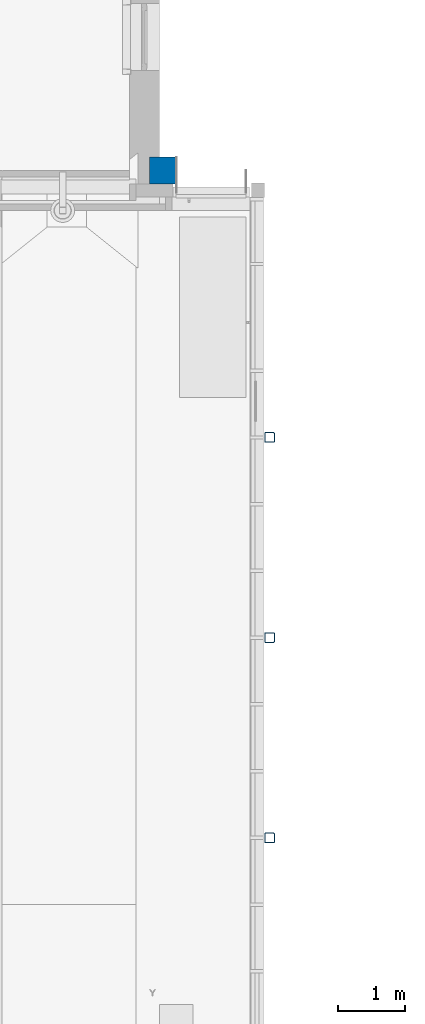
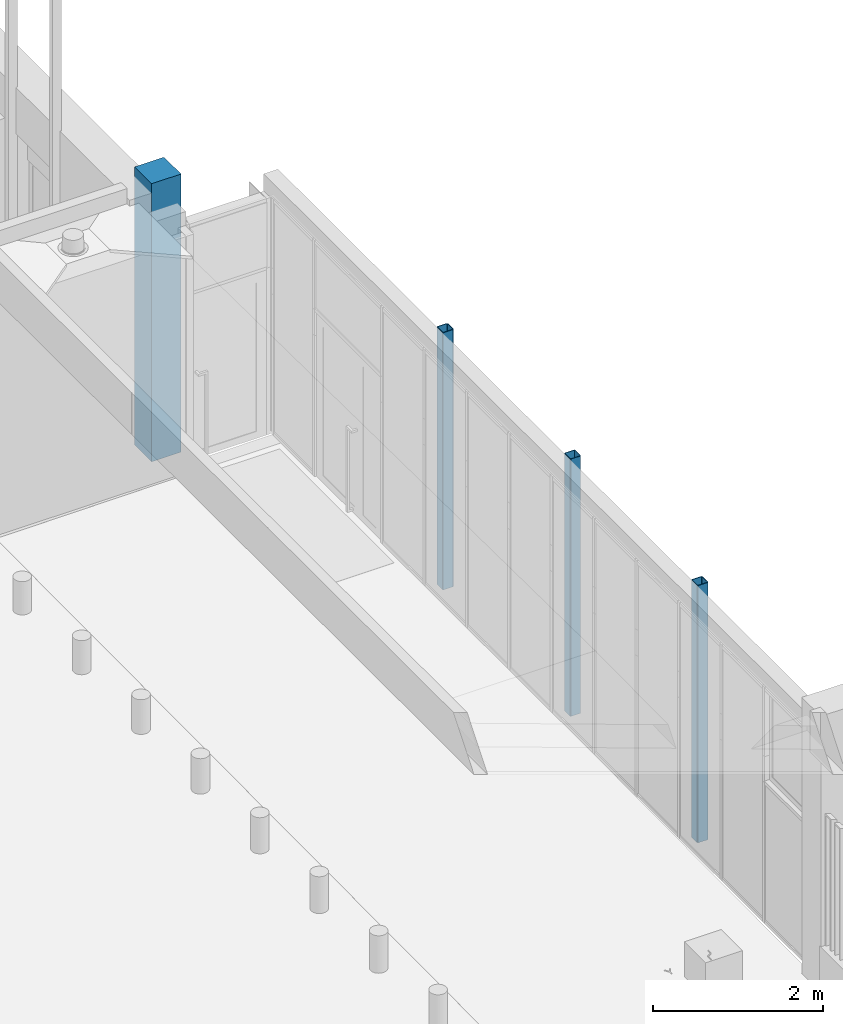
# One storey, part 2 of 77: 4 columns.
"""IFC2X3 building model written with IfcOpenShell, lengths in millimetres."""

import ifcopenshell
import ifcopenshell.guid

model = None  # the IFC model being written
_history = None  # IfcOwnerHistory: only IFC2X3 demands one
_inside = {}  # id of a spatial element -> (the spatial element, [elements in it])
_under = {}  # id of a project, library or spatial element -> (it, [spatial elements below it])
_declared = {}  # id of a project -> (the project, [libraries it declares])
_typed = {}  # id of a type object -> (the type object, [elements of that type])
_made_of = {}  # id of a material, layer set ... -> (it, [elements and type objects made of it])


def new_model(schema):
    """Start an empty IFC model of exactly this schema.

    Asked for "IFC4X3", IfcOpenShell would pick the latest addendum, in which some entities
    have other attributes; the version numbers below select the first issue.
    IFC2X3 requires an IfcOwnerHistory on every rooted entity: one is made here for all.
    """
    global model, _history
    if schema == "IFC4X3":
        model = ifcopenshell.file(schema_version=(4, 3, 0, 0))
    else:
        model = ifcopenshell.file(schema=schema)
    _inside.clear()
    _under.clear()
    _declared.clear()
    _typed.clear()
    _made_of.clear()
    _history = None
    if model.schema == "IFC2X3":
        org = make("IfcOrganization", Name="unknown")
        user = make(
            "IfcPersonAndOrganization",
            ThePerson=make("IfcPerson", FamilyName="unknown"),
            TheOrganization=org,
        )
        app = make(
            "IfcApplication",
            ApplicationDeveloper=org,
            Version="unknown",
            ApplicationFullName="unknown",
            ApplicationIdentifier="unknown",
        )
        _history = make(
            "IfcOwnerHistory",
            OwningUser=user,
            OwningApplication=app,
            ChangeAction="ADDED",
            CreationDate=0,
        )
    return model


def make(cls, **values):
    """One entity of the class cls with the attributes given. An attribute that is None is left unset."""
    return model.create_entity(
        cls, **{name: value for name, value in values.items() if value is not None}
    )


def entity(cls, *values):
    """Any entity or typed value of the class cls, its attributes in the order of the schema. None: left unset."""
    e = model.create_entity(cls)
    for i, value in enumerate(values):
        if value is not None:
            e[i] = value
    return e


def rooted(cls, **values):
    """An entity with a GlobalId (a new one), such as an element, a storey or a relation."""
    return make(cls, GlobalId=ifcopenshell.guid.new(), OwnerHistory=_history, **values)


def si_unit(unit_type, name, prefix=None):
    """IfcSIUnit, for example si_unit("LENGTHUNIT", "METRE", prefix="MILLI")."""
    return make("IfcSIUnit", UnitType=unit_type, Prefix=prefix, Name=name)


def converted_unit(unit_type, name, factor, base, dimensions=None, offset=None):
    """IfcConversionBasedUnit, such as the inch: factor (a typed value) times the base unit."""
    return make(
        "IfcConversionBasedUnit"
        if offset is None
        else "IfcConversionBasedUnitWithOffset",
        ConversionOffset=offset,
        Dimensions=None
        if dimensions is None
        else entity("IfcDimensionalExponents", *dimensions),
        UnitType=unit_type,
        Name=name,
        ConversionFactor=make(
            "IfcMeasureWithUnit", ValueComponent=factor, UnitComponent=base
        ),
    )


def derived_unit(unit_type, elements):
    """IfcDerivedUnit: a product of units, each with its exponent."""
    return make(
        "IfcDerivedUnit",
        Elements=[
            make("IfcDerivedUnitElement", Unit=unit, Exponent=power)
            for unit, power in elements
        ],
        UnitType=unit_type,
    )


def assignment(units):
    """IfcUnitAssignment: the units of a project."""
    return None if units is None else make("IfcUnitAssignment", Units=units)


def point(xyz):
    """IfcCartesianPoint."""
    return None if xyz is None else make("IfcCartesianPoint", Coordinates=xyz)


def direction(xyz):
    """IfcDirection."""
    return None if xyz is None else make("IfcDirection", DirectionRatios=xyz)


def frame(location, z_axis=None, x_axis=None):
    """IfcAxis2Placement3D, a coordinate frame: its origin and axes. An axis left out is left unset."""
    return make(
        "IfcAxis2Placement3D",
        Location=point(location),
        Axis=direction(z_axis),
        RefDirection=direction(x_axis),
    )


def frame_2d(location, x_axis=None):
    """IfcAxis2Placement2D, a coordinate frame in the plane: its origin and x axis."""
    return make(
        "IfcAxis2Placement2D", Location=point(location), RefDirection=direction(x_axis)
    )


def origin():
    """The frame at (0, 0, 0) with its axes left unset."""
    return frame((0.0, 0.0, 0.0))


def origin_2d_with_axis():
    """The frame at (0, 0) in the plane with the x axis (1, 0) written out."""
    return frame_2d((0.0, 0.0), x_axis=(1.0, 0.0))


def place(relative_to, where):
    """IfcLocalPlacement: puts the frame where relative to a parent placement (None: the world)."""
    return make(
        "IfcLocalPlacement", PlacementRelTo=relative_to, RelativePlacement=where
    )


def context(
    kind, dimensions, precision=None, world=None, true_north=None, identifier=None
):
    """IfcGeometricRepresentationContext, for example the 3D "Model" context."""
    return make(
        "IfcGeometricRepresentationContext",
        ContextIdentifier=identifier,
        ContextType=kind,
        CoordinateSpaceDimension=dimensions,
        Precision=precision,
        WorldCoordinateSystem=world,
        TrueNorth=true_north,
    )


def subcontext(parent, identifier, kind, view, scale=None):
    """IfcGeometricRepresentationSubContext, for example "Body" below "Model"."""
    return make(
        "IfcGeometricRepresentationSubContext",
        ContextIdentifier=identifier,
        ContextType=kind,
        ParentContext=parent,
        TargetScale=scale,
        TargetView=view,
    )


def project(units=None, contexts=None):
    """IfcProject with its units and contexts."""
    return rooted(
        "IfcProject",
        Name="project",
        RepresentationContexts=contexts,
        UnitsInContext=assignment(units),
    )


def spatial(cls, under=None, at=None, **own):
    """A site, building, storey or space (cls), placed at a placement, below another one or the project."""
    s = rooted(cls, ObjectPlacement=at, **own)
    if under is not None:
        _under.setdefault(under.id(), (under, []))[1].append(s)
    return s


def polyline(points):
    """IfcPolyline through the points."""
    return make("IfcPolyline", Points=[point(p) for p in points])


def circle_curve(where, radius):
    """IfcCircle in the frame where."""
    return make("IfcCircle", Position=where, Radius=radius)


def parameter(value):
    """IfcParameterValue: where a trimmed curve begins or ends, as a parameter of its basis curve."""
    return model.create_entity("IfcParameterValue", value)


def trimmed(basis, trim1, trim2, sense, master):
    """IfcTrimmedCurve: the piece of a basis curve between two trims."""
    return make(
        "IfcTrimmedCurve",
        BasisCurve=basis,
        Trim1=trim1,
        Trim2=trim2,
        SenseAgreement=sense,
        MasterRepresentation=master,
    )


def segment(curve, same_sense, transition):
    """IfcCompositeCurveSegment."""
    return make(
        "IfcCompositeCurveSegment",
        Transition=transition,
        SameSense=same_sense,
        ParentCurve=curve,
    )


def composite_curve(segments, self_intersect=None):
    """IfcCompositeCurve: segments joined end to end."""
    return make("IfcCompositeCurve", Segments=segments, SelfIntersect=self_intersect)


def profile(cls, at=None, kind="AREA", **sizes):
    """A parametric profile (cls). Its sizes go by their IFC names, for example OverallWidth=200.0."""
    return make(cls, ProfileType=kind, Position=at, **sizes)


def rectangle(**sizes):
    """IfcRectangleProfileDef."""
    return profile("IfcRectangleProfileDef", **sizes)


def outline(outer, holes=None, kind="AREA"):
    """IfcArbitraryClosedProfileDef: a profile drawn as a closed curve; with holes, ...WithVoids."""
    if holes is None:
        return make("IfcArbitraryClosedProfileDef", ProfileType=kind, OuterCurve=outer)
    return make(
        "IfcArbitraryProfileDefWithVoids",
        ProfileType=kind,
        OuterCurve=outer,
        InnerCurves=holes,
    )


def extrude(swept, where, along, depth):
    """IfcExtrudedAreaSolid: the profile swept, set in the frame where, extruded along a direction by depth."""
    return make(
        "IfcExtrudedAreaSolid",
        SweptArea=swept,
        Position=where,
        ExtrudedDirection=direction(along),
        Depth=depth,
    )


def shape(context_of_items, identifier, shape_type, items):
    """IfcShapeRepresentation: the items that make up one representation, for example the "Body"."""
    return make(
        "IfcShapeRepresentation",
        ContextOfItems=context_of_items,
        RepresentationIdentifier=identifier,
        RepresentationType=shape_type,
        Items=items,
    )


def source(mapping_origin, context_of_items, identifier, shape_type, items):
    """IfcRepresentationMap: a shape defined once, which mapped items show again and again."""
    return make(
        "IfcRepresentationMap",
        MappingOrigin=mapping_origin,
        MappedRepresentation=shape(context_of_items, identifier, shape_type, items),
    )


def transform(
    local_origin,
    x_axis=None,
    y_axis=None,
    z_axis=None,
    scale=None,
    scale2=None,
    scale3=None,
    uniform=True,
):
    """IfcCartesianTransformationOperator3D, or its non-uniform kind. x_axis, y_axis, z_axis: its Axis1, 2, 3."""
    if uniform:
        return make(
            "IfcCartesianTransformationOperator3D",
            Axis1=direction(x_axis),
            Axis2=direction(y_axis),
            LocalOrigin=point(local_origin),
            Scale=scale,
            Axis3=direction(z_axis),
        )
    return make(
        "IfcCartesianTransformationOperator3DnonUniform",
        Axis1=direction(x_axis),
        Axis2=direction(y_axis),
        LocalOrigin=point(local_origin),
        Scale=scale,
        Axis3=direction(z_axis),
        Scale2=scale2,
        Scale3=scale3,
    )


def mapped(mapping_source, mapping_target):
    """IfcMappedItem: shows the shape of a source again, moved by a transform."""
    return make(
        "IfcMappedItem", MappingSource=mapping_source, MappingTarget=mapping_target
    )


def material(Name=None, Category=None):
    """IfcMaterial."""
    return make("IfcMaterial", Name=Name, Category=Category)


def made_of(thing, what):
    """Note that an element or type object is made of a material, layer set ...; save() writes the relation."""
    if what is not None:
        _made_of.setdefault(what.id(), (what, []))[1].append(thing)
    return thing


def type_object(cls, material=None, **own):
    """A type object (cls), such as IfcWallType, which elements share."""
    return made_of(rooted(cls, **own), material)


def type_shapes(of_type, sources):
    """Give a type object the sources (RepresentationMaps) that its elements show as mapped items."""
    of_type.RepresentationMaps = sources


def element(
    cls,
    number,
    at=None,
    inside=None,
    cuts=None,
    type_object=None,
    material=None,
    context=None,
    identifier="Body",
    shape_type=None,
    held_by="IfcProductDefinitionShape",
    body=None,
    shapes=None,
    **own,
):
    """One element of the class cls, such as IfcWall. Its Tag is "e" and its number.

    at: its placement. inside: the storey or other place that contains it. cuts: it is an
    opening in that element (IfcRelVoidsElement). A single representation is given by context,
    identifier, shape_type and body (its items); several are given by shapes. held_by: the class
    of the entity that holds the representations. save() writes the other relations.
    """
    e = rooted(cls, Tag="e%d" % number, ObjectPlacement=at, **own)
    if body is not None:
        shapes = [shape(context, identifier, shape_type, body)]
    if shapes is not None:
        e.Representation = make(held_by, Representations=shapes)
    if inside is not None:
        _inside.setdefault(inside.id(), (inside, []))[1].append(e)
    if cuts is not None:
        rooted(
            "IfcRelVoidsElement", RelatingBuildingElement=cuts, RelatedOpeningElement=e
        )
    if type_object is not None:
        _typed.setdefault(type_object.id(), (type_object, []))[1].append(e)
    return made_of(e, material)


def aggregate(whole, parts):
    """IfcRelAggregates: a whole, such as a stair, and the parts it consists of."""
    return rooted("IfcRelAggregates", RelatingObject=whole, RelatedObjects=parts)


def save(model, path):
    """Write the relations noted so far, then the file.

    IfcRelAggregates (storeys below a building ...), IfcRelContainedInSpatialStructure (elements
    in a storey), IfcRelDefinesByType, IfcRelAssociatesMaterial and IfcRelDeclares: one each for
    every whole, place, type object, material and project.
    """
    for whole, parts in _under.values():
        aggregate(whole, parts)
    for where, things in _inside.values():
        rooted(
            "IfcRelContainedInSpatialStructure",
            RelatedElements=things,
            RelatingStructure=where,
        )
    for kind, things in _typed.values():
        rooted("IfcRelDefinesByType", RelatedObjects=things, RelatingType=kind)
    for what, things in _made_of.values():
        rooted("IfcRelAssociatesMaterial", RelatedObjects=things, RelatingMaterial=what)
    for by, libraries in _declared.values():
        rooted("IfcRelDeclares", RelatingContext=by, RelatedDefinitions=libraries)
    model.write(path)


model = new_model("IFC2X3")

# Units and contexts
model_context = context("Model", 3, precision=0.01, world=origin(), true_north=direction((6.12303176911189e-17, 1.0)))
body_context = subcontext(model_context, "Body", "Model", "MODEL_VIEW")
ifc_project = project(units=[si_unit("LENGTHUNIT", "METRE", prefix="MILLI"), si_unit("AREAUNIT", "SQUARE_METRE"), si_unit("VOLUMEUNIT", "CUBIC_METRE"), converted_unit("PLANEANGLEUNIT", "DEGREE", entity("IfcRatioMeasure", 0.0174532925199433), si_unit("PLANEANGLEUNIT", "RADIAN"), dimensions=[0, 0, 0, 0, 0, 0, 0]), si_unit("MASSUNIT", "GRAM", prefix="KILO"), derived_unit("MASSDENSITYUNIT", [(si_unit("MASSUNIT", "GRAM", prefix="KILO"), 1), (si_unit("LENGTHUNIT", "METRE"), -3)]), si_unit("TIMEUNIT", "SECOND"), si_unit("FREQUENCYUNIT", "HERTZ"), si_unit("THERMODYNAMICTEMPERATUREUNIT", "DEGREE_CELSIUS"), derived_unit("THERMALTRANSMITTANCEUNIT", [(si_unit("MASSUNIT", "GRAM", prefix="KILO"), 1), (si_unit("THERMODYNAMICTEMPERATUREUNIT", "KELVIN"), -1), (si_unit("TIMEUNIT", "SECOND"), -3)]), derived_unit("VOLUMETRICFLOWRATEUNIT", [(si_unit("LENGTHUNIT", "METRE"), 3), (si_unit("TIMEUNIT", "SECOND"), -1)]), si_unit("ELECTRICCURRENTUNIT", "AMPERE"), si_unit("ELECTRICVOLTAGEUNIT", "VOLT"), si_unit("POWERUNIT", "WATT"), si_unit("FORCEUNIT", "NEWTON", prefix="KILO"), si_unit("ILLUMINANCEUNIT", "LUX"), si_unit("LUMINOUSFLUXUNIT", "LUMEN"), si_unit("LUMINOUSINTENSITYUNIT", "CANDELA"), derived_unit("USERDEFINED", [(si_unit("MASSUNIT", "GRAM", prefix="KILO"), -1), (si_unit("LENGTHUNIT", "METRE"), -2), (si_unit("TIMEUNIT", "SECOND"), 3), (si_unit("LUMINOUSFLUXUNIT", "LUMEN"), 1)]), derived_unit("LINEARVELOCITYUNIT", [(si_unit("LENGTHUNIT", "METRE"), 1), (si_unit("TIMEUNIT", "SECOND"), -1)]), si_unit("PRESSUREUNIT", "PASCAL"), derived_unit("USERDEFINED", [(si_unit("LENGTHUNIT", "METRE"), -2), (si_unit("MASSUNIT", "GRAM", prefix="KILO"), 1), (si_unit("TIMEUNIT", "SECOND"), -2)])], contexts=[model_context])

# Site, building, storey
site_placement = place(None, origin())
site = spatial("IfcSite", under=ifc_project, at=site_placement, Name="Default", CompositionType="ELEMENT")
building_placement = place(site_placement, origin())
building = spatial("IfcBuilding", under=site, at=building_placement, CompositionType="ELEMENT")
storey_placement = place(building_placement, origin())
storey = spatial("IfcBuildingStorey", under=building, at=storey_placement, Name="1. KORRUS", CompositionType="ELEMENT", Elevation=0.0)

# Columns
ifc_material_1 = material(Name="Steel")
column_type_1 = type_object("IfcColumnType", Name="150x150x8SHS", PredefinedType="COLUMN")
shared_shape_1 = source(origin(), body_context, "Body", "SweptSolid", [
    extrude(outline(composite_curve([segment(polyline([(-59.0, -75.0), (59.0, -75.0)]), True, "CONTINUOUS"), segment(trimmed(circle_curve(frame_2d((59.0, -59.0), x_axis=(-1.0, 0.0)), 15.9999999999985), [parameter(90.0000000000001)], [parameter(180.0)], True, "PARAMETER"), True, "CONTINUOUS"), segment(polyline([(75.0, -59.0), (75.0, 59.0)]), True, "CONTINUOUS"), segment(trimmed(circle_curve(frame_2d((59.0, 59.0), x_axis=(-1.0, 0.0)), 16.0000000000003), [parameter(180.0)], [parameter(270.0)], True, "PARAMETER"), True, "CONTINUOUS"), segment(polyline([(59.0, 75.0), (-59.0, 75.0)]), True, "CONTINUOUS"), segment(trimmed(circle_curve(frame_2d((-59.0, 59.0), x_axis=(-1.0, 0.0)), 16.0000000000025), [parameter(269.999999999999)], [parameter(360.0)], True, "PARAMETER"), True, "CONTINUOUS"), segment(polyline([(-75.0, 59.0), (-75.0, -59.0)]), True, "CONTINUOUS"), segment(trimmed(circle_curve(frame_2d((-59.0, -59.0), x_axis=(-1.0, 0.0)), 15.9999999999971), [parameter(360.0)], [parameter(89.9999999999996)], True, "PARAMETER"), True, "CONTINUOUS")], self_intersect=False), holes=[composite_curve([segment(trimmed(circle_curve(frame_2d((-59.0, -59.0), x_axis=(-1.0, 0.0)), 7.99999999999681), [parameter(0.0)], [parameter(90.0000000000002)], True, "PARAMETER"), False, "CONTINUOUS"), segment(polyline([(-67.0, -59.0), (-67.0, 59.0)]), True, "CONTINUOUS"), segment(trimmed(circle_curve(frame_2d((-59.0, 59.0), x_axis=(-1.0, 0.0)), 7.99999999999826), [parameter(270.0)], [parameter(5.08888749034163e-14)], True, "PARAMETER"), False, "CONTINUOUS"), segment(polyline([(-59.0, 67.0), (59.0, 67.0)]), True, "CONTINUOUS"), segment(trimmed(circle_curve(frame_2d((59.0, 59.0), x_axis=(-1.0, 0.0)), 8.00000000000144), [parameter(180.0)], [parameter(270.0)], True, "PARAMETER"), False, "CONTINUOUS"), segment(polyline([(67.0, 59.0), (67.0, -59.0)]), True, "CONTINUOUS"), segment(trimmed(circle_curve(frame_2d((59.0, -59.0), x_axis=(-1.0, 0.0)), 8.00000000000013), [parameter(90.0000000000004)], [parameter(180.0)], True, "PARAMETER"), False, "CONTINUOUS"), segment(polyline([(59.0, -67.0), (-59.0, -67.0)]), True, "CONTINUOUS")], self_intersect=False)]), frame((0.0, 0.0, -100.0), z_axis=(0.0, 0.0, 1.0), x_axis=(-1.0, 0.0, 0.0)), (0.0, 0.0, 1.0), 3700.0),
])
type_shapes(column_type_1, [shared_shape_1])
for number, where, name in (
    (1, (1650.0, 3000.0, 0.0), "teraspost:150x150x8SHS"),
    (2, (1650.0, 6000.0, 0.0), "teraspost:150x150x8SHS"),
):
    element("IfcColumn", number, at=place(storey_placement, frame(where)), inside=storey, type_object=column_type_1, material=ifc_material_1, Name=name, ObjectType="150x150x8SHS", context=body_context, shape_type="MappedRepresentation", body=[
        mapped(shared_shape_1, transform((0.0, 0.0, 0.0), scale=1.0)),
    ])
ifc_material_2 = material(Name="Steel, 45-345")
column_type_2 = type_object("IfcColumnType", Name="150x150x8SHS", PredefinedType="COLUMN")
shared_shape_2 = source(origin(), body_context, "Body", "SweptSolid", [
    extrude(outline(composite_curve([segment(polyline([(-59.0, -75.0), (59.0, -75.0)]), True, "CONTINUOUS"), segment(trimmed(circle_curve(frame_2d((59.0, -59.0), x_axis=(-1.0, 0.0)), 15.9999999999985), [parameter(90.0000000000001)], [parameter(180.0)], True, "PARAMETER"), True, "CONTINUOUS"), segment(polyline([(75.0, -59.0), (75.0, 59.0)]), True, "CONTINUOUS"), segment(trimmed(circle_curve(frame_2d((59.0, 59.0), x_axis=(-1.0, 0.0)), 16.0000000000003), [parameter(180.0)], [parameter(270.0)], True, "PARAMETER"), True, "CONTINUOUS"), segment(polyline([(59.0, 75.0), (-59.0, 75.0)]), True, "CONTINUOUS"), segment(trimmed(circle_curve(frame_2d((-59.0, 59.0), x_axis=(-1.0, 0.0)), 16.0000000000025), [parameter(269.999999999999)], [parameter(360.0)], True, "PARAMETER"), True, "CONTINUOUS"), segment(polyline([(-75.0, 59.0), (-75.0, -59.0)]), True, "CONTINUOUS"), segment(trimmed(circle_curve(frame_2d((-59.0, -59.0), x_axis=(-1.0, 0.0)), 15.9999999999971), [parameter(360.0)], [parameter(89.9999999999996)], True, "PARAMETER"), True, "CONTINUOUS")], self_intersect=False), holes=[composite_curve([segment(trimmed(circle_curve(frame_2d((-59.0, -59.0), x_axis=(-1.0, 0.0)), 7.99999999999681), [parameter(0.0)], [parameter(90.0000000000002)], True, "PARAMETER"), False, "CONTINUOUS"), segment(polyline([(-67.0, -59.0), (-67.0, 59.0)]), True, "CONTINUOUS"), segment(trimmed(circle_curve(frame_2d((-59.0, 59.0), x_axis=(-1.0, 0.0)), 7.99999999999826), [parameter(270.0)], [parameter(5.08888749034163e-14)], True, "PARAMETER"), False, "CONTINUOUS"), segment(polyline([(-59.0, 67.0), (59.0, 67.0)]), True, "CONTINUOUS"), segment(trimmed(circle_curve(frame_2d((59.0, 59.0), x_axis=(-1.0, 0.0)), 8.00000000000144), [parameter(180.0)], [parameter(270.0)], True, "PARAMETER"), False, "CONTINUOUS"), segment(polyline([(67.0, 59.0), (67.0, -59.0)]), True, "CONTINUOUS"), segment(trimmed(circle_curve(frame_2d((59.0, -59.0), x_axis=(-1.0, 0.0)), 8.00000000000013), [parameter(90.0000000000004)], [parameter(180.0)], True, "PARAMETER"), False, "CONTINUOUS"), segment(polyline([(59.0, -67.0), (-59.0, -67.0)]), True, "CONTINUOUS")], self_intersect=False)]), frame((0.0, 0.0, -100.0), z_axis=(0.0, 0.0, 1.0), x_axis=(-1.0, 0.0, 0.0)), (0.0, 0.0, 1.0), 3700.0),
])
type_shapes(column_type_2, [shared_shape_2])
column_1_placement = place(storey_placement, frame((1650.0, 9000.0, 0.0)))
element("IfcColumn", 3, at=column_1_placement, inside=storey, type_object=column_type_2, material=ifc_material_2, Name="teraspost:150x150x8SHS", ObjectType="150x150x8SHS", context=body_context, shape_type="MappedRepresentation", body=[
    mapped(shared_shape_2, transform((0.0, 0.0, 0.0), scale=1.0)),
])
ifc_material_3 = material(Name="r/b")
column_type_3 = type_object("IfcColumnType", Name="400 x 400mm", PredefinedType="COLUMN")
shared_shape_3 = source(origin(), body_context, "Body", "SweptSolid", [
    extrude(rectangle(XDim=400.0, YDim=400.0, at=origin_2d_with_axis()), frame((50.0, 13000.0, 0.0), z_axis=(0.0, 0.0, 1.0), x_axis=(0.0, -1.0, 0.0)), (0.0, 0.0, 1.0), 4000.0),
])
type_shapes(column_type_3, [shared_shape_3])
column_2_placement = place(storey_placement, origin())
element("IfcColumn", 4, at=column_2_placement, inside=storey, type_object=column_type_3, material=ifc_material_3, Name="r/b post:400 x 400mm", ObjectType="400 x 400mm", context=body_context, shape_type="MappedRepresentation", body=[
    mapped(shared_shape_3, transform((0.0, 0.0, 0.0), scale=1.0)),
])

save(model, "model.ifc")
